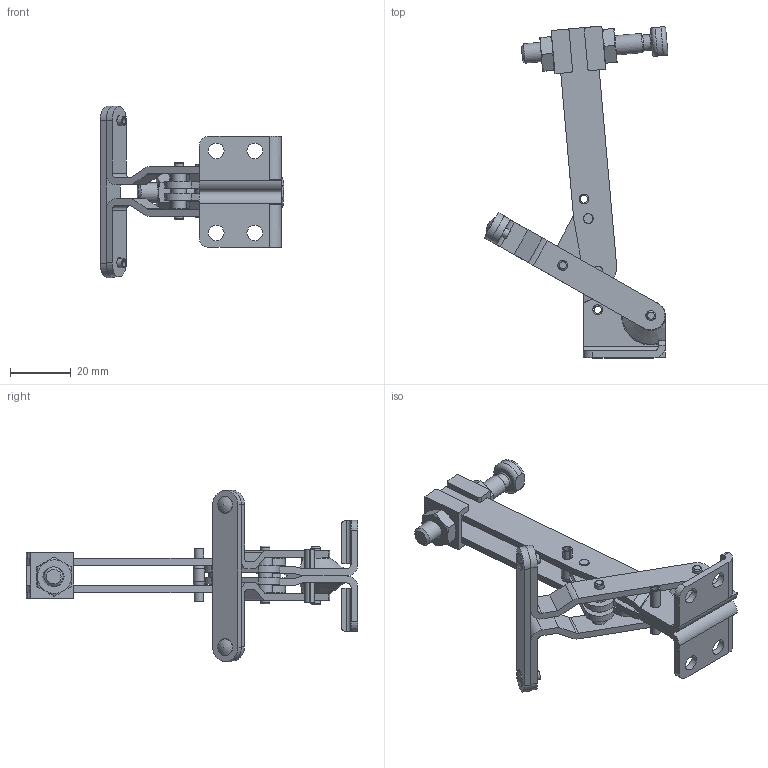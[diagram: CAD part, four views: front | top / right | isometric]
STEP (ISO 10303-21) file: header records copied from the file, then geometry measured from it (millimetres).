
FILE_DESCRIPTION(/* description */ (''),/* implementation_level */ '2;1');
FILE_NAME(/* name */ 'C:\Users\Nick\Desktop\t-100\3D\T-100 Open.stp',/* time_stamp */ '2015-10-06T12:34:11-04:00',/* author */ ('Nick'),/* organization */ (''),/* preprocessor_version */ 'ST-DEVELOPER v16.1',/* originating_system */ 'AutoCAD Mechanical',/* authorisation */ '');
FILE_SCHEMA (('AUTOMOTIVE_DESIGN { 1 0 10303 214 3 1 1 }'));
Length unit declared in the file: inch
Products named in the file (1): Product
Bounding box: 60.43 x 109.15 x 56.4 mm (x, y, z)
Volume: 19227.5 mm3; surface area: 21989.7 mm2
Topology: 22 solids, 22 shells, 337 faces, 802 edges, 523 vertices
Faces by surface type: plane 155, cylinder 122, cone 39, torus 16, bspline 4, sphere 1
Full cylindrical faces by diameter (mm): 2.286 x2, 3.048 x2, 3.099 x8, 3.175 x1, 3.2 x2, 3.251 x10, 3.353 x1, 4.674 x4, 4.75 x2, 4.775 x2, 4.826 x8, 4.978 x2, 5.156 x5, 6.35 x3, 6.756 x2
Entity records: 9599 total; most frequent: CARTESIAN_POINT 1970, DIRECTION 1612, ORIENTED_EDGE 1426, EDGE_CURVE 713, AXIS2_PLACEMENT_3D 649, VERTEX_POINT 509, EDGE_LOOP 490, FACE_OUTER_BOUND 337
